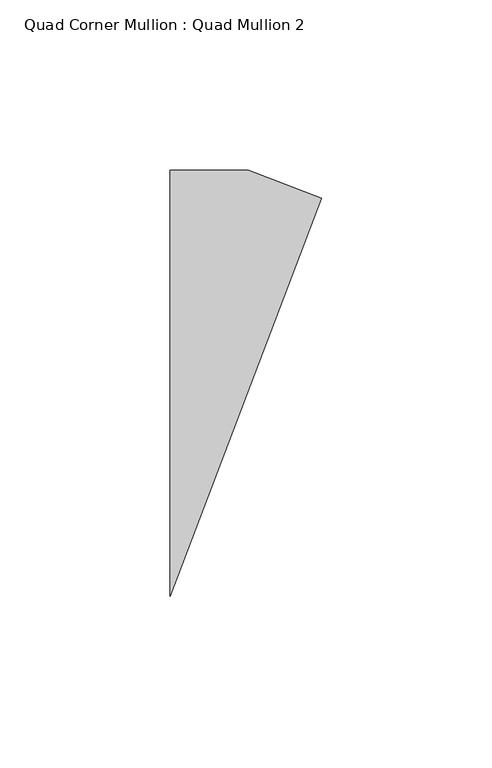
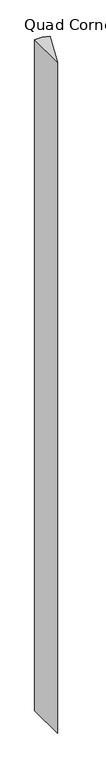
"""IFC4 building model written with IfcOpenShell, lengths in millimetres: member geometry, Quad Corner Mullion : Quad Mullion 2."""

from ifc_helpers import new_model, si_unit, frame, origin, place, context, project, spatial, polyline, outline, extrude, source, transform, mapped, element, save


def quad_corner_mullion_quad_mullion_2_d184318a(model_context):
    return source(origin(), model_context, "Body", "SweptSolid", [
        extrude(outline(polyline([(32.9426475, 54.3399872), (-11.4805153, -62.5), (-11.4805153, 62.5), (11.4805153, 62.5), (32.9426475, 54.3399872)])), frame((0.0, 0.0, -2258.3497794), z_axis=(0.0, 0.0, 1.0), x_axis=(1.0, 0.0, 0.0)), (0.0, 0.0, 1.0), 2258.3497794),
    ])


if __name__ == "__main__":
    model = new_model("IFC4")
    model_context = context("Model", 3, world=origin())
    ifc_project = project(units=[si_unit("LENGTHUNIT", "METRE", prefix="MILLI")], contexts=[model_context])
    site = spatial("IfcSite", under=ifc_project)
    building = spatial("IfcBuilding", under=site)
    placement = place(None, origin())
    quad_corner_mullion_quad_mullion_2_shape = quad_corner_mullion_quad_mullion_2_d184318a(model_context)
    element("IfcMember", 1, ObjectType="Quad Corner Mullion : Quad Mullion 2", at=placement, inside=building, context=model_context, shape_type="MappedRepresentation", body=[
        mapped(quad_corner_mullion_quad_mullion_2_shape, transform((0.0, 0.0, 0.0), x_axis=(1.0, 0.0, 0.0), y_axis=(0.0, 1.0, 0.0), z_axis=(0.0, 0.0, 1.0))),
    ])
    save(model, "model.ifc")
